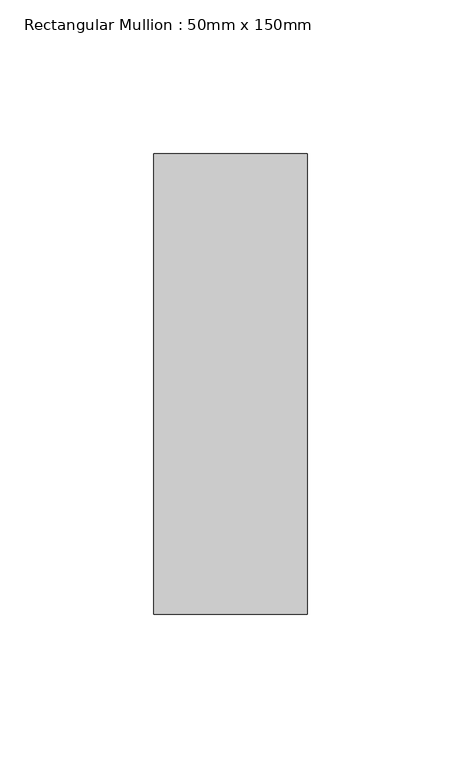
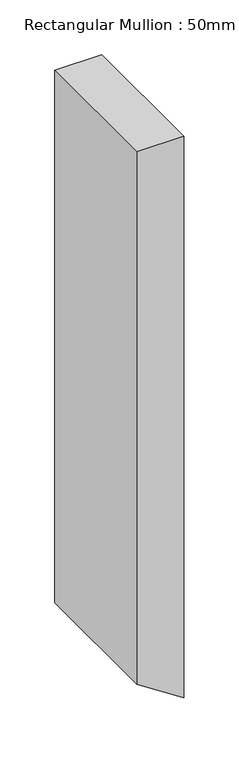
"""IFC4 building model written with IfcOpenShell, lengths in millimetres: member geometry, Rectangular Mullion : 50mm x 150mm."""

from ifc_helpers import new_model, si_unit, frame, origin, place, context, project, spatial, polyline, outline, extrude, source, transform, mapped, element, save


def rectangular_mullion_50mm_x_150mm_468e4a4c(model_context):
    return source(origin(), model_context, "Body", "SweptSolid", [
        extrude(outline(polyline([(0.0, 0.0), (0.0, -50.0), (-594.5136081, -50.0), (-627.067248, 0.0), (0.0, 0.0)])), frame((0.0, -75.0, 0.0), z_axis=(0.0, 1.0, 0.0), x_axis=(0.0, 0.0, 1.0)), (0.0, 0.0, 1.0), 150.0),
    ])


if __name__ == "__main__":
    model = new_model("IFC4")
    model_context = context("Model", 3, world=origin())
    ifc_project = project(units=[si_unit("LENGTHUNIT", "METRE", prefix="MILLI")], contexts=[model_context])
    site = spatial("IfcSite", under=ifc_project)
    building = spatial("IfcBuilding", under=site)
    placement = place(None, origin())
    rectangular_mullion_50mm_x_150mm_shape = rectangular_mullion_50mm_x_150mm_468e4a4c(model_context)
    element("IfcMember", 1, ObjectType="Rectangular Mullion : 50mm x 150mm", at=placement, inside=building, context=model_context, shape_type="MappedRepresentation", body=[
        mapped(rectangular_mullion_50mm_x_150mm_shape, transform((0.0, 0.0, 0.0), x_axis=(1.0, 0.0, 0.0), y_axis=(0.0, 1.0, 0.0), z_axis=(0.0, 0.0, 1.0))),
    ])
    save(model, "model.ifc")
